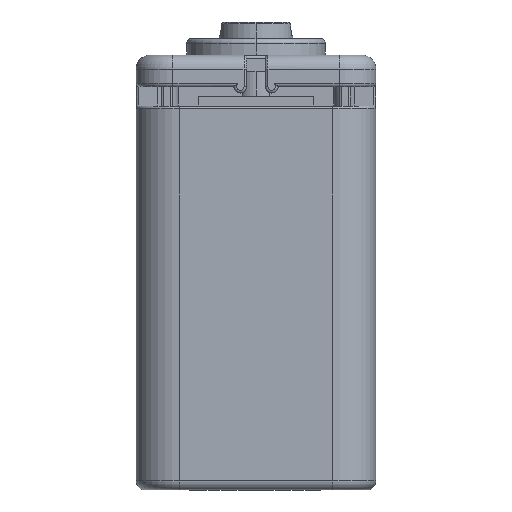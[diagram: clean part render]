
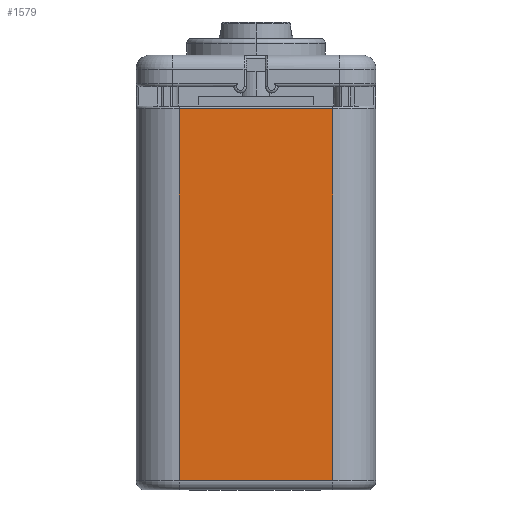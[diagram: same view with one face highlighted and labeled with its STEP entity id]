
A CAD part, left-side view. The second image highlights one B-rep face of the part: STEP entity #1579.
In plain terms, the highlighted planar face has unit normal (-1, 0, 0).
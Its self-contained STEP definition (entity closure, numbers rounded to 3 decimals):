
#1179 = VERTEX_POINT ( 'NONE', #4307 ) ;
#1182 = EDGE_CURVE ( 'NONE', #1179, #1184, #4306, .T. ) ;
#1184 = VERTEX_POINT ( 'NONE', #4302 ) ;
#1499 = ORIENTED_EDGE ( 'NONE', *, *, #1182, .F. ) ;
#1501 = ORIENTED_EDGE ( 'NONE', *, *, #1503, .T. ) ;
#1503 = EDGE_CURVE ( 'NONE', #1179, #1504, #5044, .T. ) ;
#1504 = VERTEX_POINT ( 'NONE', #5040 ) ;
#1506 = ORIENTED_EDGE ( 'NONE', *, *, #1508, .T. ) ;
#1508 = EDGE_CURVE ( 'NONE', #1504, #1509, #5039, .T. ) ;
#1509 = VERTEX_POINT ( 'NONE', #5035 ) ;
#1546 = ORIENTED_EDGE ( 'NONE', *, *, #1548, .T. ) ;
#1548 = EDGE_CURVE ( 'NONE', #1509, #1184, #5104, .T. ) ;
#1579 = ADVANCED_FACE ( 'NONE', ( #5179 ), #5178, .T. ) ;
#1580 = EDGE_LOOP ( 'NONE', ( #1499, #1501, #1506, #1546 ) ) ;
#4302 = CARTESIAN_POINT ( 'NONE',  ( -43.5, 8.3, -5.8 ) ) ;
#4303 = DIRECTION ( 'NONE',  ( 0., 0., 1. ) ) ;
#4304 = VECTOR ( 'NONE', #4303, 1000. ) ;
#4305 = CARTESIAN_POINT ( 'NONE',  ( -43.5, 8.3, -23.8 ) ) ;
#4306 = LINE ( 'NONE', #4305, #4304 ) ;
#4307 = CARTESIAN_POINT ( 'NONE',  ( -43.5, 8.3, -46.1 ) ) ;
#5035 = CARTESIAN_POINT ( 'NONE',  ( -43.5, -8.3, -5.8 ) ) ;
#5036 = DIRECTION ( 'NONE',  ( 0., 0., 1. ) ) ;
#5037 = VECTOR ( 'NONE', #5036, 1000. ) ;
#5038 = CARTESIAN_POINT ( 'NONE',  ( -43.5, -8.3, -11.449 ) ) ;
#5039 = LINE ( 'NONE', #5038, #5037 ) ;
#5040 = CARTESIAN_POINT ( 'NONE',  ( -43.5, -8.3, -46.1 ) ) ;
#5041 = DIRECTION ( 'NONE',  ( 0., -1., 0. ) ) ;
#5042 = VECTOR ( 'NONE', #5041, 1000. ) ;
#5043 = CARTESIAN_POINT ( 'NONE',  ( -43.5, -7.254, -46.1 ) ) ;
#5044 = LINE ( 'NONE', #5043, #5042 ) ;
#5101 = DIRECTION ( 'NONE',  ( 0., 1., 0. ) ) ;
#5102 = VECTOR ( 'NONE', #5101, 1000. ) ;
#5103 = CARTESIAN_POINT ( 'NONE',  ( -43.5, -7.254, -5.8 ) ) ;
#5104 = LINE ( 'NONE', #5103, #5102 ) ;
#5173 = DIRECTION ( 'NONE',  ( 0., -1., 0. ) ) ;
#5174 = DIRECTION ( 'NONE',  ( -1., 0., 0. ) ) ;
#5175 = CARTESIAN_POINT ( 'NONE',  ( -43.5, -7.254, -11.449 ) ) ;
#5177 = AXIS2_PLACEMENT_3D ( 'NONE', #5175, #5174, #5173 ) ;
#5178 = PLANE ( 'NONE',  #5177 ) ;
#5179 = FACE_OUTER_BOUND ( 'NONE', #1580, .T. ) ;
